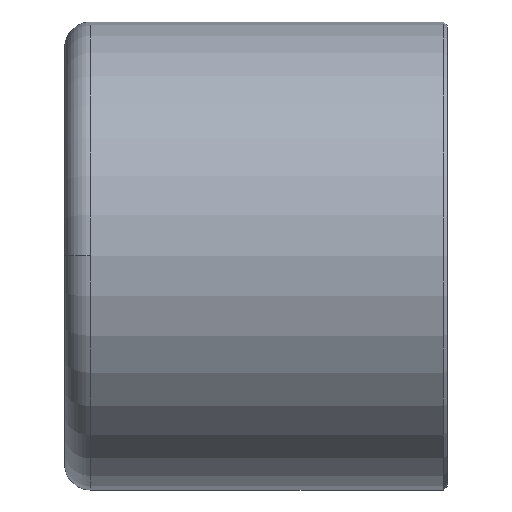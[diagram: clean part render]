
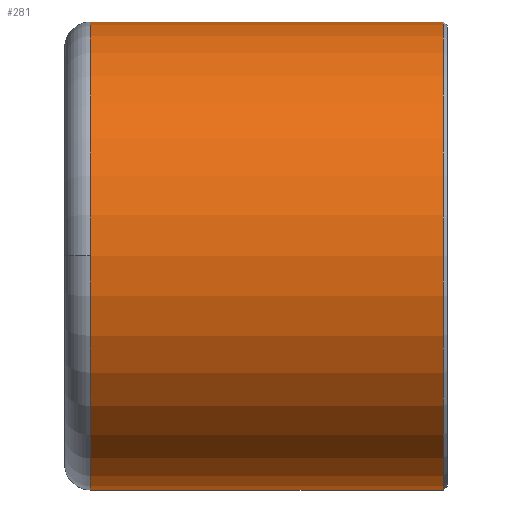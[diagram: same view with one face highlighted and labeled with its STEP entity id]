
A CAD part, top view. The second image highlights one B-rep face of the part: STEP entity #281.
In plain terms, the highlighted cylindrical face has radius 11.8 mm (diameter 23.6 mm), a partial arc.
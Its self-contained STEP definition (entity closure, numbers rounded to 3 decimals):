
#78=CARTESIAN_POINT('',(-8.75,0.,11.8));
#79=VERTEX_POINT('',#78);
#87=CARTESIAN_POINT('',(-8.75,11.8,0.0));
#88=VERTEX_POINT('',#87);
#89=CARTESIAN_POINT('',(-8.75,0.,0.0));
#90=DIRECTION('',(1.0,0.0,0.0));
#91=DIRECTION('',(0.0,1.0,0.0));
#92=AXIS2_PLACEMENT_3D('',#89,#90,#91);
#93=CIRCLE('',#92,11.8);
#94=EDGE_CURVE('',#88,#79,#93,.T.);
#241=CARTESIAN_POINT('',(0.25,0.,0.0));
#242=DIRECTION('',(1.0,0.,0.0));
#243=DIRECTION('',(0.0,1.0,0.0));
#244=AXIS2_PLACEMENT_3D('',#241,#242,#243);
#245=CYLINDRICAL_SURFACE('',#244,11.8);
#246=CARTESIAN_POINT('',(9.05,11.8,0.));
#247=VERTEX_POINT('',#246);
#248=CARTESIAN_POINT('',(-8.75,11.8,0.0));
#249=DIRECTION('',(1.0,0.0,0.0));
#250=VECTOR('',#249,17.8);
#251=LINE('',#248,#250);
#252=EDGE_CURVE('',#88,#247,#251,.T.);
#253=ORIENTED_EDGE('',*,*,#252,.F.);
#254=ORIENTED_EDGE('',*,*,#94,.T.);
#255=CARTESIAN_POINT('',(-8.75,-11.8,0.));
#256=VERTEX_POINT('',#255);
#257=CARTESIAN_POINT('',(-8.75,0.,0.0));
#258=DIRECTION('',(1.0,0.0,0.0));
#259=DIRECTION('',(0.0,1.0,0.0));
#260=AXIS2_PLACEMENT_3D('',#257,#258,#259);
#261=CIRCLE('',#260,11.8);
#262=EDGE_CURVE('',#79,#256,#261,.T.);
#263=ORIENTED_EDGE('',*,*,#262,.T.);
#264=CARTESIAN_POINT('',(9.05,-11.8,0.));
#265=VERTEX_POINT('',#264);
#266=CARTESIAN_POINT('',(9.05,-11.8,0.));
#267=DIRECTION('',(-1.0,0.0,0.0));
#268=VECTOR('',#267,17.8);
#269=LINE('',#266,#268);
#270=EDGE_CURVE('',#265,#256,#269,.T.);
#271=ORIENTED_EDGE('',*,*,#270,.F.);
#272=CARTESIAN_POINT('',(9.05,0.,0.0));
#273=DIRECTION('',(1.0,0.0,0.0));
#274=DIRECTION('',(0.0,1.0,0.0));
#275=AXIS2_PLACEMENT_3D('',#272,#273,#274);
#276=CIRCLE('',#275,11.8);
#277=EDGE_CURVE('',#247,#265,#276,.T.);
#278=ORIENTED_EDGE('',*,*,#277,.F.);
#279=EDGE_LOOP('',(#253,#254,#263,#271,#278));
#280=FACE_OUTER_BOUND('',#279,.T.);
#281=ADVANCED_FACE('',(#280),#245,.T.);
